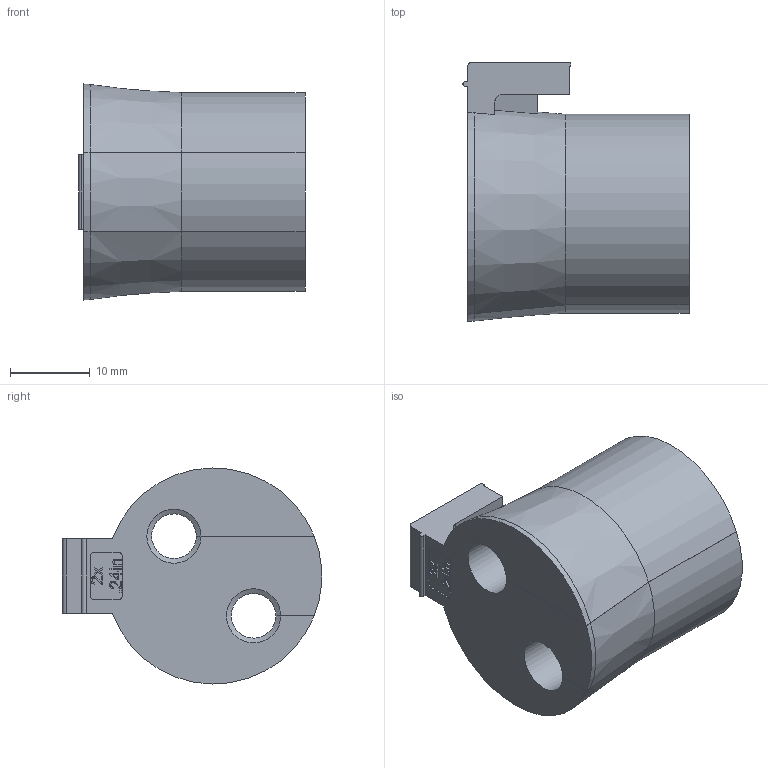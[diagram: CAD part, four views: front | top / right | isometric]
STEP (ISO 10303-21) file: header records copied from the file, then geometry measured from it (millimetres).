
FILE_DESCRIPTION(/* description */ (''),/* implementation_level */ '2;1');
FILE_NAME(/* name */ 'H:\SapWorkDir\Inventor\MP1\ConvertTempPath\87_12_121338_00_A_220525_KDT-X 2x6.stp',/* time_stamp */ '2022-05-25T13:32:07+02:00',/* author */ ('BAUER'),/* organization */ (''),/* preprocessor_version */ 'ST-DEVELOPER v16.13',/* originating_system */ 'Autodesk Inventor 2018',/* authorisation */ '');
FILE_SCHEMA (('AUTOMOTIVE_DESIGN { 1 0 10303 214 3 1 1 }'));
Length unit declared in the file: millimetre
Products named in the file (1): 121338
Bounding box: 28.4 x 32.53 x 27.14 mm (x, y, z)
Volume: 12765.6 mm3; surface area: 5672.2 mm2
Topology: 1 solids, 1 shells, 141 faces, 389 edges, 260 vertices
Faces by surface type: plane 90, bspline 25, cylinder 17, cone 9
Entity records: 4617 total; most frequent: CARTESIAN_POINT 1120, ORIENTED_EDGE 778, DIRECTION 610, EDGE_CURVE 389, LINE 290, VECTOR 290, VERTEX_POINT 260, AXIS2_PLACEMENT_3D 160
